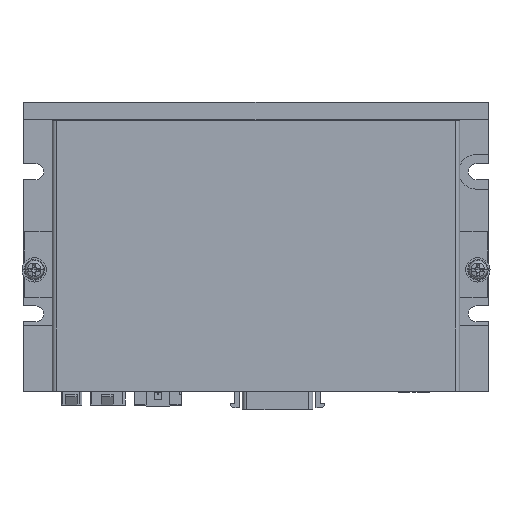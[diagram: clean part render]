
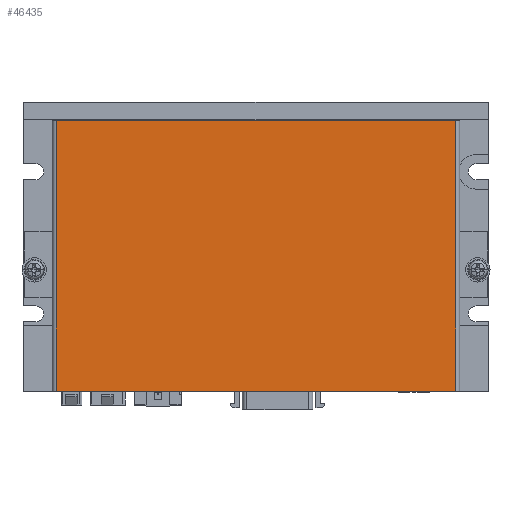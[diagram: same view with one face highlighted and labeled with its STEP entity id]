
A CAD part, top view. The second image highlights one B-rep face of the part: STEP entity #46435.
In plain terms, the highlighted planar face has unit normal (0, 0, 1).
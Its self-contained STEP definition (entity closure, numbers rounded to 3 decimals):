
#1593 = EDGE_CURVE ( 'NONE', #38192, #8282, #21957, .T. ) ;
#2546 = ORIENTED_EDGE ( 'NONE', *, *, #60416, .T. ) ;
#4282 = PLANE ( 'NONE',  #58118 ) ;
#8282 = VERTEX_POINT ( 'NONE', #12252 ) ;
#10936 = DIRECTION ( 'NONE',  ( 1., 0., 0. ) ) ;
#12252 = CARTESIAN_POINT ( 'NONE',  ( 116.3, -78., 0. ) ) ;
#15877 = EDGE_CURVE ( 'NONE', #61075, #17041, #64428, .T. ) ;
#16015 = EDGE_CURVE ( 'NONE', #8282, #17041, #40764, .T. ) ;
#17041 = VERTEX_POINT ( 'NONE', #83982 ) ;
#18654 = DIRECTION ( 'NONE',  ( 0., -1., 0. ) ) ;
#21957 = LINE ( 'NONE', #54156, #54941 ) ;
#34298 = LINE ( 'NONE', #51526, #67270 ) ;
#37560 = EDGE_LOOP ( 'NONE', ( #40859, #80358, #41976, #2546 ) ) ;
#38192 = VERTEX_POINT ( 'NONE', #54217 ) ;
#40764 = LINE ( 'NONE', #55069, #71667 ) ;
#40859 = ORIENTED_EDGE ( 'NONE', *, *, #1593, .T. ) ;
#41976 = ORIENTED_EDGE ( 'NONE', *, *, #15877, .F. ) ;
#43750 = CARTESIAN_POINT ( 'NONE',  ( 0., 0., 0. ) ) ;
#46435 = ADVANCED_FACE ( 'NONE', ( #52722 ), #4282, .T. ) ;
#46943 = VECTOR ( 'NONE', #60254, 1000. ) ;
#47033 = CARTESIAN_POINT ( 'NONE',  ( 0., 0., 0. ) ) ;
#47534 = DIRECTION ( 'NONE',  ( 1., 0., 0. ) ) ;
#50375 = DIRECTION ( 'NONE',  ( 0., 0., 1. ) ) ;
#51526 = CARTESIAN_POINT ( 'NONE',  ( 1.2, 0., 0. ) ) ;
#52722 = FACE_OUTER_BOUND ( 'NONE', #37560, .T. ) ;
#54156 = CARTESIAN_POINT ( 'NONE',  ( 0., -78., 0. ) ) ;
#54217 = CARTESIAN_POINT ( 'NONE',  ( 1.2, -78., 0. ) ) ;
#54941 = VECTOR ( 'NONE', #47534, 1000. ) ;
#55069 = CARTESIAN_POINT ( 'NONE',  ( 116.3, 0., 0. ) ) ;
#58118 = AXIS2_PLACEMENT_3D ( 'NONE', #43750, #50375, #10936 ) ;
#60254 = DIRECTION ( 'NONE',  ( 1., 0., 0. ) ) ;
#60416 = EDGE_CURVE ( 'NONE', #61075, #38192, #34298, .T. ) ;
#61075 = VERTEX_POINT ( 'NONE', #84913 ) ;
#61657 = DIRECTION ( 'NONE',  ( 0., 1., 0. ) ) ;
#64428 = LINE ( 'NONE', #47033, #46943 ) ;
#67270 = VECTOR ( 'NONE', #18654, 1000. ) ;
#71667 = VECTOR ( 'NONE', #61657, 1000. ) ;
#80358 = ORIENTED_EDGE ( 'NONE', *, *, #16015, .T. ) ;
#83982 = CARTESIAN_POINT ( 'NONE',  ( 116.3, 0., 0. ) ) ;
#84913 = CARTESIAN_POINT ( 'NONE',  ( 1.2, 0., 0. ) ) ;
